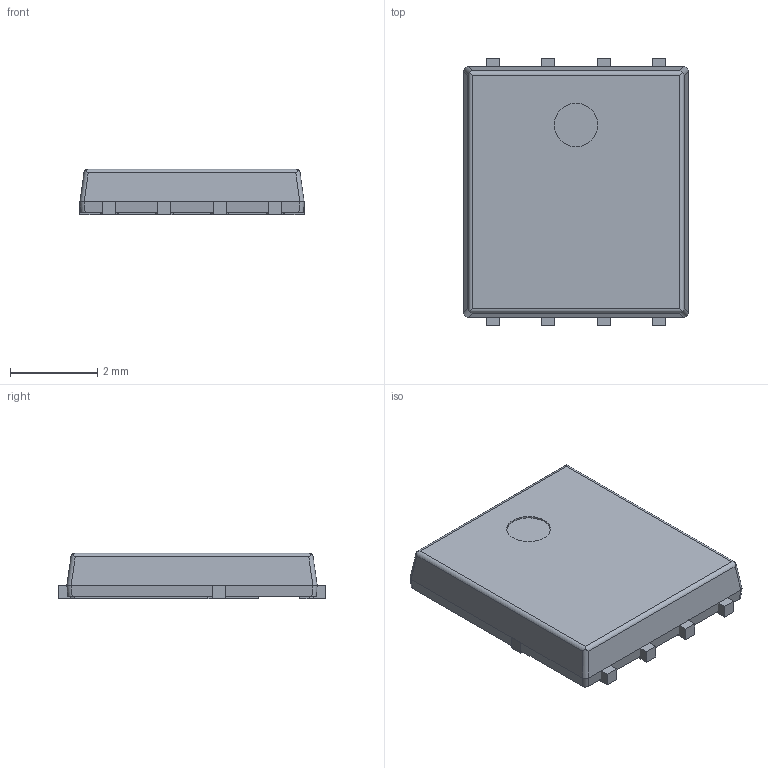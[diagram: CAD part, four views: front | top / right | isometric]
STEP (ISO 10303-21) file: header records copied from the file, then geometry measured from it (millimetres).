
FILE_DESCRIPTION(/* description */ ('Unknown'),/* implementation_level */ '2;1');
FILE_NAME(/* name */ 'DFN5060XC-8L',/* time_stamp */ '2025-12-24T10:37:28+08:00',/* author */ ('Unknown'),/* organization */ ('Unknown'),/* preprocessor_version */ 'ST-DEVELOPER v18.104',/* originating_system */ 'Solid Edge',/* authorisation */ 'Unknown');
FILE_SCHEMA (('AUTOMOTIVE_DESIGN {1 0 10303 214 3 1 1}'));
Length unit declared in the file: millimetre
Products named in the file (1): DFN5060XC-8L
Bounding box: 5.15 x 6.15 x 1.05 mm (x, y, z)
Surface area: 124.5 mm2
Topology: 6 solids, 6 shells, 110 faces, 291 edges, 194 vertices
Faces by surface type: plane 97, cylinder 13
Full cylindrical faces by diameter (mm): 1 x1
Entity records: 3408 total; most frequent: CARTESIAN_POINT 595, ORIENTED_EDGE 580, DIRECTION 534, EDGE_CURVE 290, LINE 268, VECTOR 268, VERTEX_POINT 194, AXIS2_PLACEMENT_3D 133
